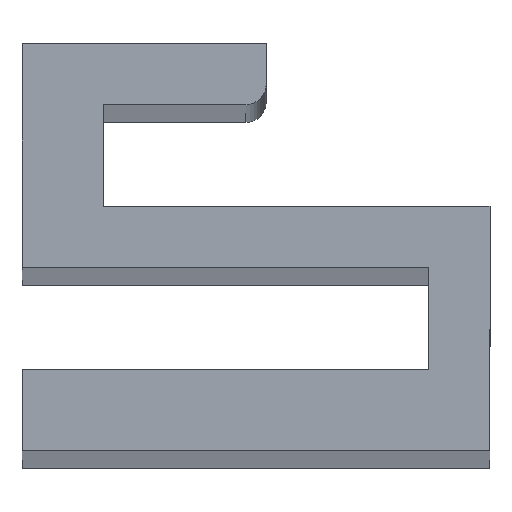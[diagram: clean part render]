
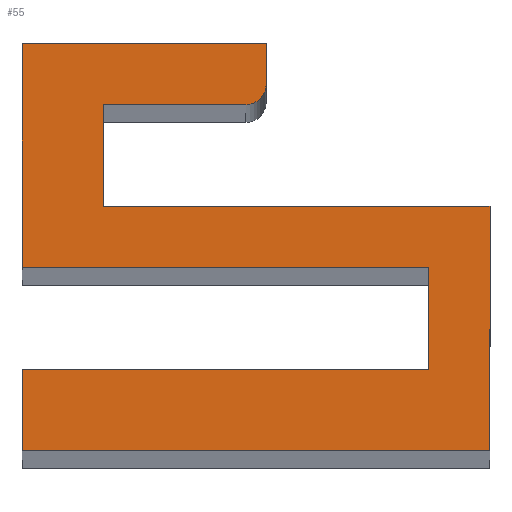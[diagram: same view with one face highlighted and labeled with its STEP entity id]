
A CAD part, top view. The second image highlights one B-rep face of the part: STEP entity #55.
In plain terms, the highlighted planar face has unit normal (0, 0, 1).
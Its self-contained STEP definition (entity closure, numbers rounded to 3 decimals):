
#8 = DIRECTION ( 'NONE',  ( -1., 0., 0. ) ) ;
#9 = VECTOR ( 'NONE', #8, 1000. ) ;
#13 = CARTESIAN_POINT ( 'NONE',  ( 11., -3., 0. ) ) ;
#14 = LINE ( 'NONE', #13, #9 ) ;
#15 = DIRECTION ( 'NONE',  ( 0., 0., -1. ) ) ;
#28 = CARTESIAN_POINT ( 'NONE',  ( 11., -2., 0. ) ) ;
#41 = ORIENTED_EDGE ( 'NONE', *, *, #119, .F. ) ;
#42 = AXIS2_PLACEMENT_3D ( 'NONE', #28, #15, #86 ) ;
#43 = ORIENTED_EDGE ( 'NONE', *, *, #223, .F. ) ;
#44 = ORIENTED_EDGE ( 'NONE', *, *, #181, .F. ) ;
#45 = ORIENTED_EDGE ( 'NONE', *, *, #103, .F. ) ;
#46 = ORIENTED_EDGE ( 'NONE', *, *, #222, .F. ) ;
#47 = ORIENTED_EDGE ( 'NONE', *, *, #235, .F. ) ;
#48 = ORIENTED_EDGE ( 'NONE', *, *, #99, .F. ) ;
#49 = ORIENTED_EDGE ( 'NONE', *, *, #186, .F. ) ;
#50 = ORIENTED_EDGE ( 'NONE', *, *, #165, .F. ) ;
#54 = ORIENTED_EDGE ( 'NONE', *, *, #60, .F. ) ;
#55 = ADVANCED_FACE ( 'NONE', ( #245 ), #247, .F. ) ;
#60 = EDGE_CURVE ( 'NONE', #150, #185, #84, .T. ) ;
#65 = CARTESIAN_POINT ( 'NONE',  ( 11., -3., 0. ) ) ;
#70 = CARTESIAN_POINT ( 'NONE',  ( 4., -8., 0. ) ) ;
#81 = DIRECTION ( 'NONE',  ( 0., -1., 0. ) ) ;
#82 = VECTOR ( 'NONE', #81, 1000. ) ;
#83 = CARTESIAN_POINT ( 'NONE',  ( 12., 0., 0. ) ) ;
#84 = LINE ( 'NONE', #83, #82 ) ;
#86 = DIRECTION ( 'NONE',  ( -1., 0., 0. ) ) ;
#97 = VERTEX_POINT ( 'NONE', #65 ) ;
#99 = EDGE_CURVE ( 'NONE', #97, #175, #14, .T. ) ;
#103 = EDGE_CURVE ( 'NONE', #157, #204, #345, .T. ) ;
#119 = EDGE_CURVE ( 'NONE', #240, #126, #391, .T. ) ;
#123 = EDGE_CURVE ( 'NONE', #126, #220, #326, .T. ) ;
#126 = VERTEX_POINT ( 'NONE', #254 ) ;
#136 = ORIENTED_EDGE ( 'NONE', *, *, #141, .F. ) ;
#137 = ORIENTED_EDGE ( 'NONE', *, *, #195, .F. ) ;
#141 = EDGE_CURVE ( 'NONE', #220, #150, #316, .T. ) ;
#150 = VERTEX_POINT ( 'NONE', #302 ) ;
#154 = EDGE_LOOP ( 'NONE', ( #137, #54, #136, #202, #41, #43, #46, #47, #45, #49, #44, #50, #48 ) ) ;
#157 = VERTEX_POINT ( 'NONE', #355 ) ;
#165 = EDGE_CURVE ( 'NONE', #175, #197, #377, .T. ) ;
#175 = VERTEX_POINT ( 'NONE', #364 ) ;
#181 = EDGE_CURVE ( 'NONE', #197, #211, #280, .T. ) ;
#185 = VERTEX_POINT ( 'NONE', #275 ) ;
#186 = EDGE_CURVE ( 'NONE', #211, #157, #290, .T. ) ;
#195 = EDGE_CURVE ( 'NONE', #185, #97, #400, .T. ) ;
#197 = VERTEX_POINT ( 'NONE', #70 ) ;
#202 = ORIENTED_EDGE ( 'NONE', *, *, #123, .F. ) ;
#204 = VERTEX_POINT ( 'NONE', #340 ) ;
#211 = VERTEX_POINT ( 'NONE', #500 ) ;
#220 = VERTEX_POINT ( 'NONE', #481 ) ;
#221 = VERTEX_POINT ( 'NONE', #478 ) ;
#222 = EDGE_CURVE ( 'NONE', #238, #221, #495, .T. ) ;
#223 = EDGE_CURVE ( 'NONE', #221, #240, #472, .T. ) ;
#235 = EDGE_CURVE ( 'NONE', #204, #238, #415, .T. ) ;
#238 = VERTEX_POINT ( 'NONE', #418 ) ;
#240 = VERTEX_POINT ( 'NONE', #453 ) ;
#245 = FACE_OUTER_BOUND ( 'NONE', #154, .T. ) ;
#247 = PLANE ( 'NONE',  #42 ) ;
#249 = DIRECTION ( 'NONE',  ( -1., 0., 0. ) ) ;
#250 = VECTOR ( 'NONE', #249, 1000. ) ;
#254 = CARTESIAN_POINT ( 'NONE',  ( 0., -11., 0. ) ) ;
#270 = DIRECTION ( 'NONE',  ( -1., 0., 0. ) ) ;
#271 = VECTOR ( 'NONE', #270, 1000. ) ;
#273 = VECTOR ( 'NONE', #402, 1000. ) ;
#275 = CARTESIAN_POINT ( 'NONE',  ( 12., -2., 0. ) ) ;
#276 = DIRECTION ( 'NONE',  ( 1., 0., 0. ) ) ;
#277 = VECTOR ( 'NONE', #276, 1000. ) ;
#278 = CARTESIAN_POINT ( 'NONE',  ( 4., -8., 0. ) ) ;
#280 = LINE ( 'NONE', #278, #277 ) ;
#289 = CARTESIAN_POINT ( 'NONE',  ( 23., -8., 0. ) ) ;
#290 = LINE ( 'NONE', #289, #273 ) ;
#296 = DIRECTION ( 'NONE',  ( 1., 0., 0. ) ) ;
#297 = VECTOR ( 'NONE', #296, 1000. ) ;
#302 = CARTESIAN_POINT ( 'NONE',  ( 12., 0., 0. ) ) ;
#315 = CARTESIAN_POINT ( 'NONE',  ( 0., 0., 0. ) ) ;
#316 = LINE ( 'NONE', #315, #297 ) ;
#321 = VECTOR ( 'NONE', #385, 1000. ) ;
#326 = LINE ( 'NONE', #386, #321 ) ;
#337 = CARTESIAN_POINT ( 'NONE',  ( 23., -20., 0. ) ) ;
#340 = CARTESIAN_POINT ( 'NONE',  ( 0., -20., 0. ) ) ;
#343 = DIRECTION ( 'NONE',  ( -1., 0., 0. ) ) ;
#344 = DIRECTION ( 'NONE',  ( 0., 0., -1. ) ) ;
#345 = LINE ( 'NONE', #337, #271 ) ;
#355 = CARTESIAN_POINT ( 'NONE',  ( 23., -20., 0. ) ) ;
#364 = CARTESIAN_POINT ( 'NONE',  ( 4., -3., 0. ) ) ;
#374 = DIRECTION ( 'NONE',  ( 0., -1., 0. ) ) ;
#375 = VECTOR ( 'NONE', #374, 1000. ) ;
#376 = CARTESIAN_POINT ( 'NONE',  ( 4., -3., 0. ) ) ;
#377 = LINE ( 'NONE', #376, #375 ) ;
#385 = DIRECTION ( 'NONE',  ( 0., 1., 0. ) ) ;
#386 = CARTESIAN_POINT ( 'NONE',  ( 0., -11., 0. ) ) ;
#390 = CARTESIAN_POINT ( 'NONE',  ( 20., -11., 0. ) ) ;
#391 = LINE ( 'NONE', #390, #250 ) ;
#395 = AXIS2_PLACEMENT_3D ( 'NONE', #401, #344, #343 ) ;
#400 = CIRCLE ( 'NONE', #395, 1. ) ;
#401 = CARTESIAN_POINT ( 'NONE',  ( 11., -2., 0. ) ) ;
#402 = DIRECTION ( 'NONE',  ( 0., -1., 0. ) ) ;
#407 = DIRECTION ( 'NONE',  ( 0., 1., 0. ) ) ;
#408 = VECTOR ( 'NONE', #407, 1000. ) ;
#409 = CARTESIAN_POINT ( 'NONE',  ( 0., -20., 0. ) ) ;
#415 = LINE ( 'NONE', #409, #408 ) ;
#418 = CARTESIAN_POINT ( 'NONE',  ( 0., -16., 0. ) ) ;
#431 = DIRECTION ( 'NONE',  ( 0., 1., 0. ) ) ;
#432 = VECTOR ( 'NONE', #431, 1000. ) ;
#433 = CARTESIAN_POINT ( 'NONE',  ( 20., -16., 0. ) ) ;
#453 = CARTESIAN_POINT ( 'NONE',  ( 20., -11., 0. ) ) ;
#472 = LINE ( 'NONE', #433, #432 ) ;
#473 = DIRECTION ( 'NONE',  ( 1., 0., 0. ) ) ;
#474 = VECTOR ( 'NONE', #473, 1000. ) ;
#475 = CARTESIAN_POINT ( 'NONE',  ( 0., -16., 0. ) ) ;
#478 = CARTESIAN_POINT ( 'NONE',  ( 20., -16., 0. ) ) ;
#481 = CARTESIAN_POINT ( 'NONE',  ( 0., 0., 0. ) ) ;
#495 = LINE ( 'NONE', #475, #474 ) ;
#500 = CARTESIAN_POINT ( 'NONE',  ( 23., -8., 0. ) ) ;
